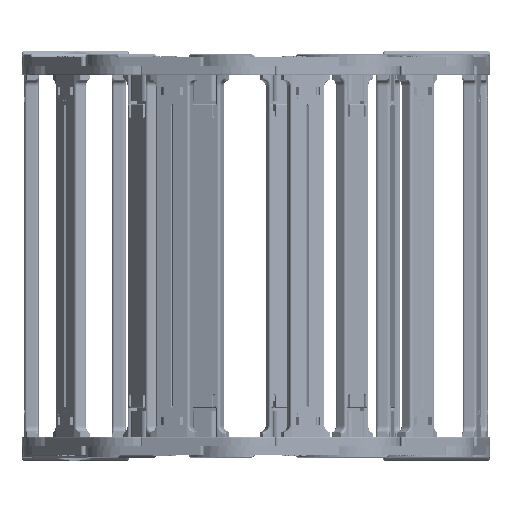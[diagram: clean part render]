
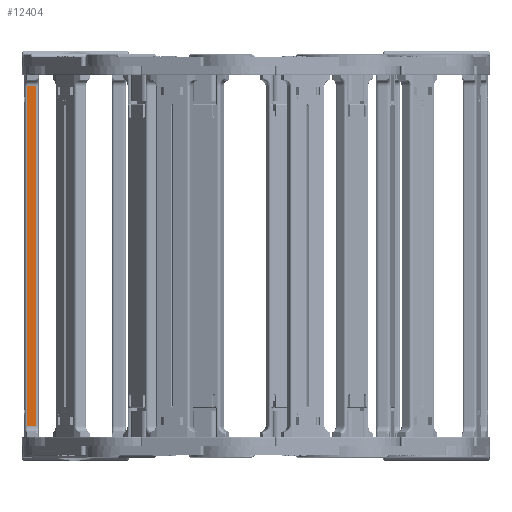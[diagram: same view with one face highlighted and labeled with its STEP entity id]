
A CAD part, left-side view. The second image highlights one B-rep face of the part: STEP entity #12404.
In plain terms, the highlighted planar face has unit normal (-1, 0, 0) as drawn and (0, -1, 0) by its records, which use the part's own axes.
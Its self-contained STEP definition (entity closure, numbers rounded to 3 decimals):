
#658 = VERTEX_POINT ( 'NONE', #27037 ) ;
#677 = DIRECTION ( 'NONE',  ( 0., 0., -1. ) ) ;
#1104 = CARTESIAN_POINT ( 'NONE',  ( 40.804, -15., 2. ) ) ;
#1247 = DIRECTION ( 'NONE',  ( -1., 0., 0. ) ) ;
#2870 = ORIENTED_EDGE ( 'NONE', *, *, #18423, .T. ) ;
#3114 = VECTOR ( 'NONE', #1247, 1000. ) ;
#3691 = CARTESIAN_POINT ( 'NONE',  ( 240.804, -15., 9.5 ) ) ;
#4947 = VECTOR ( 'NONE', #17168, 1000. ) ;
#5126 = VERTEX_POINT ( 'NONE', #13126 ) ;
#5471 = AXIS2_PLACEMENT_3D ( 'NONE', #17457, #35069, #17709 ) ;
#6022 = EDGE_CURVE ( 'NONE', #12541, #658, #7034, .T. ) ;
#6949 = VERTEX_POINT ( 'NONE', #17016 ) ;
#7034 = LINE ( 'NONE', #35462, #12996 ) ;
#8876 = PLANE ( 'NONE',  #5471 ) ;
#9294 = FACE_OUTER_BOUND ( 'NONE', #15940, .T. ) ;
#10108 = EDGE_CURVE ( 'NONE', #6949, #658, #22829, .T. ) ;
#12404 = ADVANCED_FACE ( 'NONE', ( #9294 ), #8876, .F. ) ;
#12541 = VERTEX_POINT ( 'NONE', #3691 ) ;
#12996 = VECTOR ( 'NONE', #677, 1000. ) ;
#13126 = CARTESIAN_POINT ( 'NONE',  ( -40.804, -15., 9.5 ) ) ;
#13623 = ORIENTED_EDGE ( 'NONE', *, *, #10108, .T. ) ;
#14294 = CARTESIAN_POINT ( 'NONE',  ( -40.804, -15., 11.5 ) ) ;
#15040 = VECTOR ( 'NONE', #35881, 1000. ) ;
#15940 = EDGE_LOOP ( 'NONE', ( #13623, #18383, #2870, #25480 ) ) ;
#17016 = CARTESIAN_POINT ( 'NONE',  ( -40.804, -15., 2. ) ) ;
#17168 = DIRECTION ( 'NONE',  ( 0., 0., -1. ) ) ;
#17457 = CARTESIAN_POINT ( 'NONE',  ( -40.804, -15., 11.5 ) ) ;
#17709 = DIRECTION ( 'NONE',  ( 0., 0., 1. ) ) ;
#18383 = ORIENTED_EDGE ( 'NONE', *, *, #6022, .F. ) ;
#18423 = EDGE_CURVE ( 'NONE', #12541, #5126, #26399, .T. ) ;
#18828 = CARTESIAN_POINT ( 'NONE',  ( -40.804, -15., 9.5 ) ) ;
#22829 = LINE ( 'NONE', #1104, #15040 ) ;
#25480 = ORIENTED_EDGE ( 'NONE', *, *, #34793, .T. ) ;
#26399 = LINE ( 'NONE', #18828, #3114 ) ;
#27037 = CARTESIAN_POINT ( 'NONE',  ( 240.804, -15., 2. ) ) ;
#34793 = EDGE_CURVE ( 'NONE', #5126, #6949, #35848, .T. ) ;
#35069 = DIRECTION ( 'NONE',  ( 0., 1., 0. ) ) ;
#35462 = CARTESIAN_POINT ( 'NONE',  ( 240.804, -15., 11.5 ) ) ;
#35848 = LINE ( 'NONE', #14294, #4947 ) ;
#35881 = DIRECTION ( 'NONE',  ( 1., 0., 0. ) ) ;
